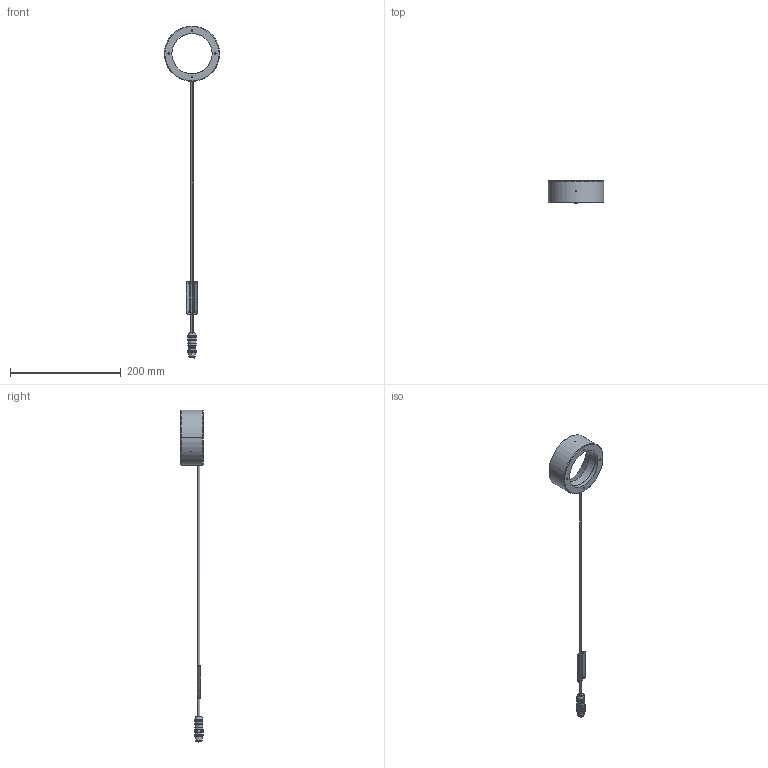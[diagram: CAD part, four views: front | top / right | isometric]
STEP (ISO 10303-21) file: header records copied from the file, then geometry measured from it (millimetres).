
FILE_DESCRIPTION (( 'STEP AP203' ), '1' );
FILE_NAME ('CV-DR-100X73#-M12(IMC-DR-100X73#-M).STEP', '2024-04-20T09:54:54', ( '' ), ( '' ), 'SwSTEP 2.0', 'SolidWorks 2023', '' );
FILE_SCHEMA (( 'CONFIG_CONTROL_DESIGN' ));
Length unit declared in the file: millimetre
Products named in the file (1): CV-DR-100X73#-M12(IMC-DR-100X73#-M)
Bounding box: 100 x 40.15 x 600 mm (x, y, z)
Volume: 135664.4 mm3; surface area: 39119.4 mm2
Topology: 2 solids, 2 shells, 836 faces, 2302 edges, 1499 vertices
Faces by surface type: cylinder 320, plane 309, bspline 122, cone 69, torus 16
Entity records: 30532 total; most frequent: CARTESIAN_POINT 9753, ORIENTED_EDGE 4604, DIRECTION 4003, EDGE_CURVE 2302, VERTEX_POINT 1499, AXIS2_PLACEMENT_3D 1447, LINE 1109, VECTOR 1109
